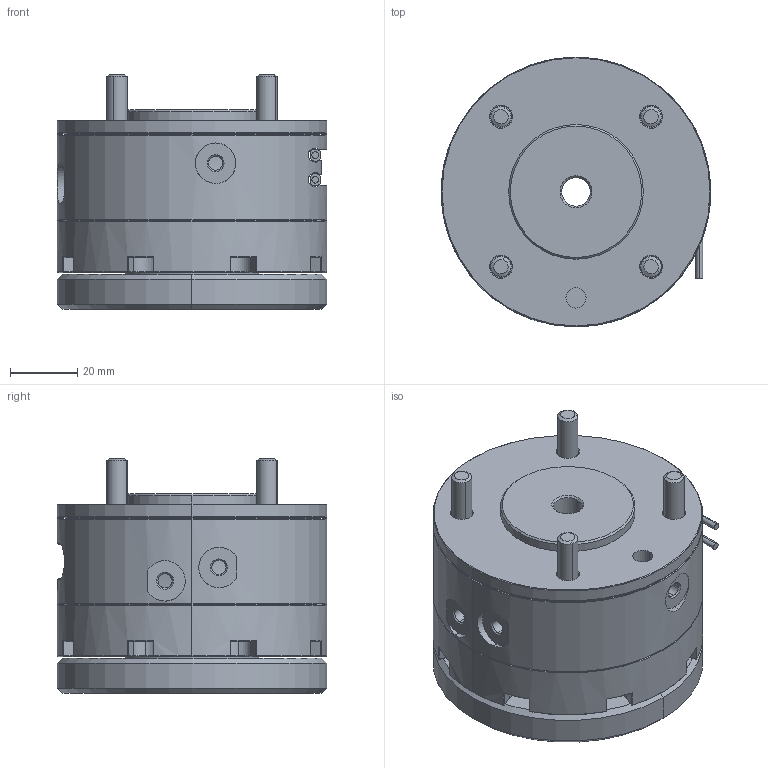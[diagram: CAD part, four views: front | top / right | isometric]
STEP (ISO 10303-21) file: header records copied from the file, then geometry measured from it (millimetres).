
FILE_DESCRIPTION (( 'STEP AP203' ), '1' );
FILE_NAME ('FD-XY-063.STEP', '2026-07-09T01:02:43', ( 'USER-' ), ( 'Microsoft' ), 'SwSTEP 2.0', 'SolidWorks 2018', '' );
FILE_SCHEMA (( 'CONFIG_CONTROL_DESIGN' ));
Length unit declared in the file: millimetre
Products named in the file (8): FD-XY-063-01 俋褲-1; 25x10-R5; FD-XY-063; 棠羲換覜ん; FD-XY-063-04 硃野极薊輸-1; 内六角薄圆柱头螺钉[GBT70_1-2008][M6×20]-1; FD-XY-063-03 階裔-1; FD-XY-063-02 菁裔-1-1
Assembly tree (11 placements, depth 2):
  FD-XY-063
    FD-XY-063-01 俋褲-1
    FD-XY-063-02 菁裔-1-1
    FD-XY-063-04 硃野极薊輸-1
    FD-XY-063-03 階裔-1
    内六角薄圆柱头螺钉[GBT70_1-2008][M6×20]-1  x4
    25x10-R5
    棠羲換覜ん  x2
Bounding box: 80 x 80.01 x 69.7 mm (x, y, z)
Volume: 249301.3 mm3; surface area: 64908.7 mm2
Topology: 11 solids, 11 shells, 906 faces, 2341 edges, 1514 vertices
Faces by surface type: plane 408, cylinder 201, bspline 157, cone 124, torus 16
Entity records: 33284 total; most frequent: CARTESIAN_POINT 12724, ORIENTED_EDGE 4340, DIRECTION 3604, EDGE_CURVE 2170, VERTEX_POINT 1406, LINE 1256, VECTOR 1256, AXIS2_PLACEMENT_3D 1174
